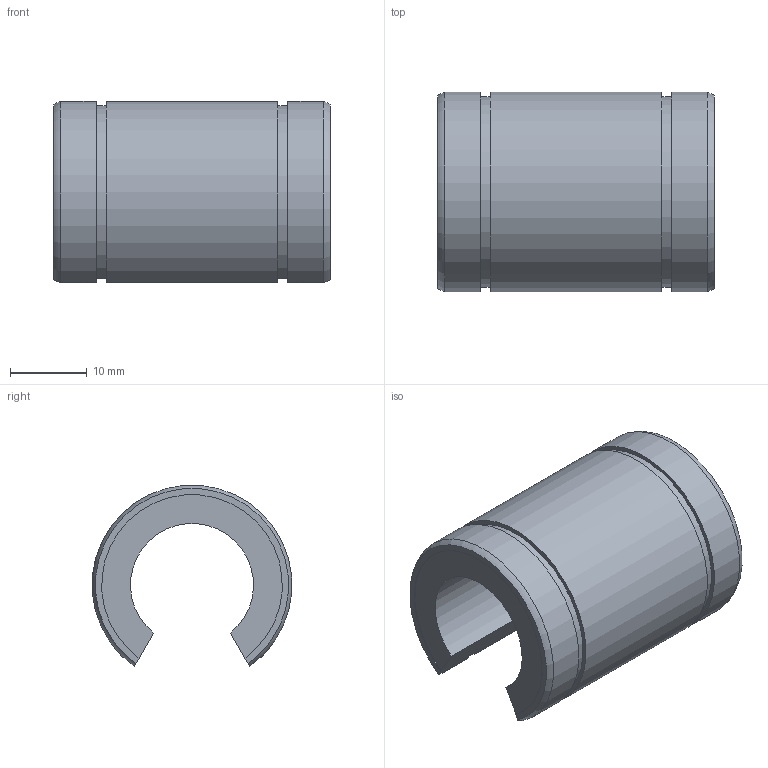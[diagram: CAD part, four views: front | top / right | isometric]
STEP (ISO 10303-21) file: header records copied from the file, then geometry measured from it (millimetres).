
FILE_DESCRIPTION((''),'2;1');
FILE_NAME('D:\製品 (図面)\カタログ用3D\リニアベアリング関連\STEP形式\LE-OP\LE16-OP.stp','2010-06-03T09:09:18',('Tsuchiya'),(''),'Autodesk Inventor 10','Autodesk Inventor 10','');
FILE_SCHEMA(('AUTOMOTIVE_DESIGN { 1 0 10303 214 1 1 1 1 }'));
Length unit declared in the file: millimetre
Products named in the file (1): LE16-OP
Bounding box: 36 x 25.91 x 23.56 mm (x, y, z)
Volume: 9309.5 mm3; surface area: 4760.5 mm2
Topology: 1 solids, 1 shells, 20 faces, 54 edges, 36 vertices
Faces by surface type: plane 10, cylinder 8, torus 2
Entity records: 681 total; most frequent: CARTESIAN_POINT 141, DIRECTION 110, ORIENTED_EDGE 108, EDGE_CURVE 54, AXIS2_PLACEMENT_3D 39, VERTEX_POINT 36, VECTOR 32, LINE 32
